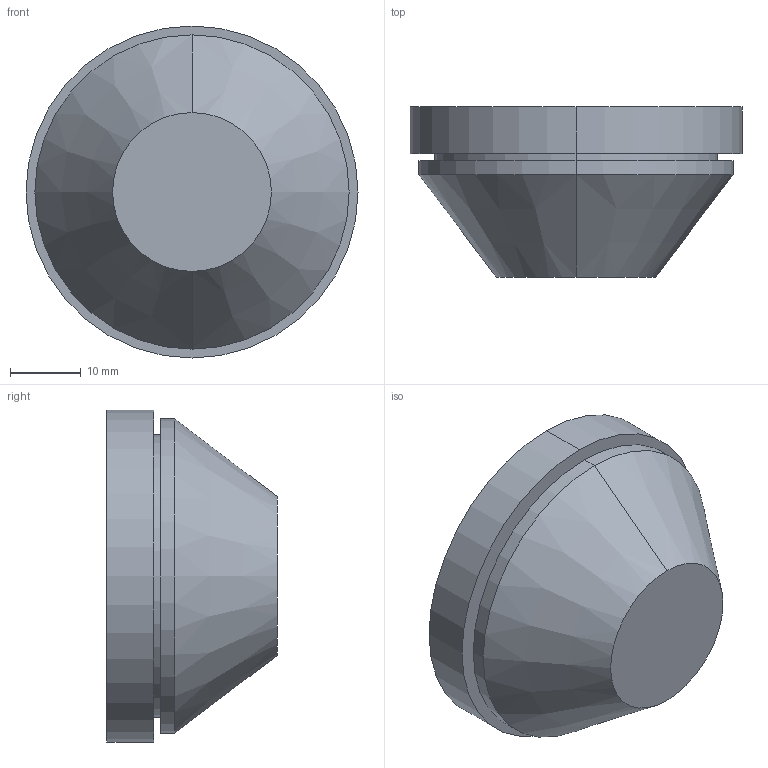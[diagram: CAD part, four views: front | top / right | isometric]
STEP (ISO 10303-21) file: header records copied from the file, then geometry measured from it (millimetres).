
FILE_DESCRIPTION (( 'STEP AP203' ), '1' );
FILE_NAME ('100583.STEP', '2012-10-25T05:18:36', ( 'Joni' ), ( 'Hewlett-Packard Company' ), 'SwSTEP 2.0', 'SolidWorks 2012', '' );
FILE_SCHEMA (( 'CONFIG_CONTROL_DESIGN' ));
Length unit declared in the file: millimetre
Products named in the file (1): 100583
Bounding box: 47 x 24.1 x 47 mm (x, y, z)
Volume: 29054 mm3; surface area: 6204.4 mm2
Topology: 1 solids, 1 shells, 12 faces, 22 edges, 14 vertices
Faces by surface type: cylinder 6, plane 4, cone 2
Entity records: 381 total; most frequent: DIRECTION 62, CARTESIAN_POINT 49, ORIENTED_EDGE 44, AXIS2_PLACEMENT_3D 27, EDGE_CURVE 22, EDGE_LOOP 14, CIRCLE 14, VERTEX_POINT 14
